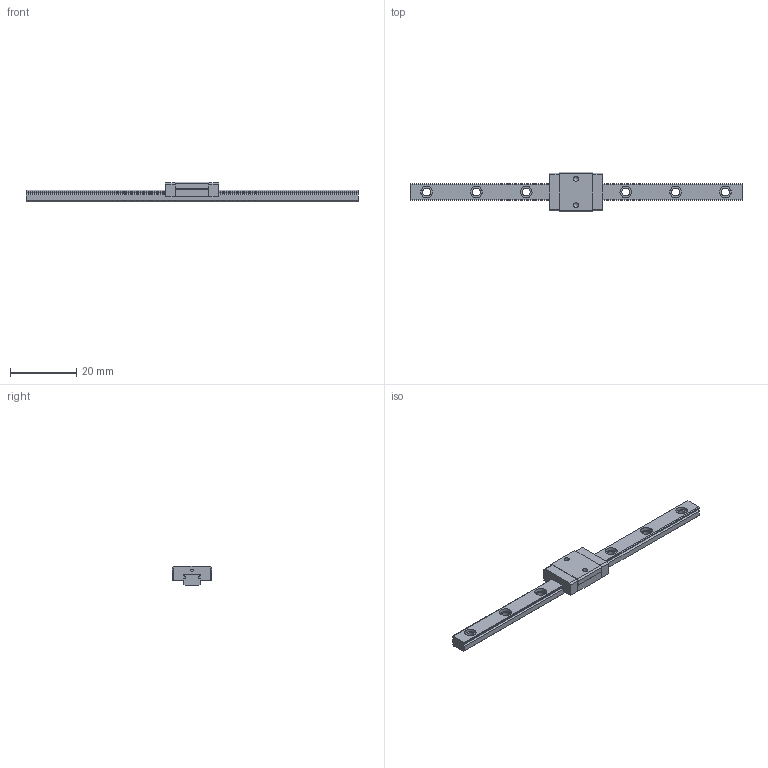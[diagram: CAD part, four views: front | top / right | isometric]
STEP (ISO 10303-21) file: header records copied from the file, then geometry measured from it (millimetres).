
FILE_DESCRIPTION((''),'2;1');
FILE_NAME('C:\Documents and Settings\土屋\My Documents\土屋移動用フォルダ\製品 (図面)\カタログ用3D\リニアガイド\EGM\EGM5.stp','2015-02-21T13:04:49',('y'),(''),'Autodesk Inventor 11','Autodesk Inventor 11','');
FILE_SCHEMA(('AUTOMOTIVE_DESIGN { 1 0 10303 214 1 1 1 1 }'));
Length unit declared in the file: millimetre
Products named in the file (3): EGM5; EGM5レール; EGM5ベアリング
Assembly tree (2 placements, depth 2):
  EGM5
    EGM5レール
    EGM5ベアリング
Bounding box: 100 x 12 x 6 mm (x, y, z)
Volume: 2159.5 mm3; surface area: 2643.9 mm2
Topology: 2 solids, 2 shells, 85 faces, 216 edges, 144 vertices
Faces by surface type: plane 41, bspline 27, cylinder 17
Full cylindrical faces by diameter (mm): 0.7 x1
Entity records: 2793 total; most frequent: CARTESIAN_POINT 769, DIRECTION 386, ORIENTED_EDGE 384, EDGE_CURVE 192, VERTEX_POINT 140, AXIS2_PLACEMENT_3D 131, EDGE_LOOP 128, VECTOR 124
